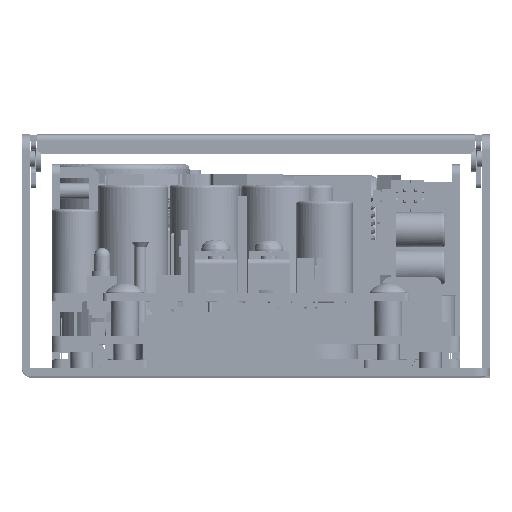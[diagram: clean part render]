
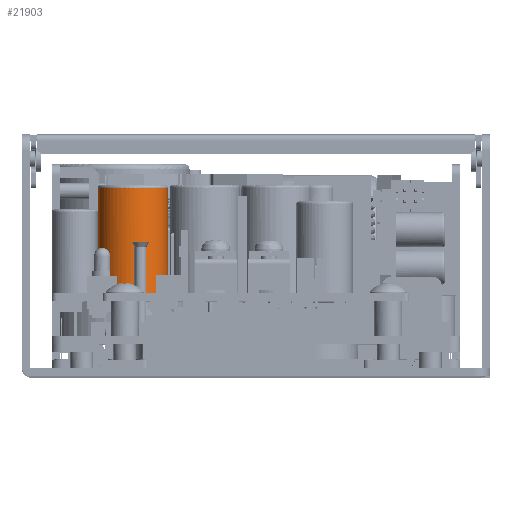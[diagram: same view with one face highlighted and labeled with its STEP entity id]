
A CAD part, top view. The second image highlights one B-rep face of the part: STEP entity #21903.
In plain terms, the highlighted cylindrical face has radius 6.5 mm (diameter 13 mm), a partial arc.
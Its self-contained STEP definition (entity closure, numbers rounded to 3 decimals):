
#492 = FACE_OUTER_BOUND ( 'NONE', #224707, .T. ) ;
#4794 = VERTEX_POINT ( 'NONE', #33130 ) ;
#18282 = CARTESIAN_POINT ( 'NONE',  ( -17.689, 35.1, 44.866 ) ) ;
#21903 = ADVANCED_FACE ( 'NONE', ( #492 ), #314435, .T. ) ;
#22781 = CARTESIAN_POINT ( 'NONE',  ( -16.387, 15.6, 40.871 ) ) ;
#27052 = ORIENTED_EDGE ( 'NONE', *, *, #331733, .T. ) ;
#28819 = CARTESIAN_POINT ( 'NONE',  ( -24.588, 15.6, 47.202 ) ) ;
#30522 = CARTESIAN_POINT ( 'NONE',  ( -16.387, 22.1, 40.871 ) ) ;
#32064 = CARTESIAN_POINT ( 'NONE',  ( -29.387, 35.1, 40.871 ) ) ;
#33130 = CARTESIAN_POINT ( 'NONE',  ( -29.387, 15.6, 40.871 ) ) ;
#34358 = CARTESIAN_POINT ( 'NONE',  ( -29.218, 15.6, 42.572 ) ) ;
#36226 = CARTESIAN_POINT ( 'NONE',  ( -16.556, 15.6, 42.572 ) ) ;
#41781 = B_SPLINE_CURVE_WITH_KNOTS ( 'NONE', 3,
 ( #248998, #109691, #308966, #226265 ),
 .UNSPECIFIED., .F., .F.,
 ( 4, 4 ),
 ( 0., 1. ),
 .UNSPECIFIED. ) ;
#49457 = CARTESIAN_POINT ( 'NONE',  ( -22.887, 15.6, 40.871 ) ) ;
#50225 = CARTESIAN_POINT ( 'NONE',  ( -28.567, 35.1, 44.145 ) ) ;
#53883 = CARTESIAN_POINT ( 'NONE',  ( -24.588, 35.1, 47.202 ) ) ;
#58939 = CARTESIAN_POINT ( 'NONE',  ( -17.207, 15.6, 44.145 ) ) ;
#60654 = CARTESIAN_POINT ( 'NONE',  ( -16.387, 15.6, 40.871 ) ) ;
#63721 = ORIENTED_EDGE ( 'NONE', *, *, #149946, .T. ) ;
#64525 = CARTESIAN_POINT ( 'NONE',  ( -29.387, 15.6, 41.722 ) ) ;
#66788 = B_SPLINE_CURVE_WITH_KNOTS ( 'NONE', 3,
 ( #277787, #279606, #305939, #311508, #18282, #245994, #163121, #136688, #247834, #307784, #53883, #253381, #80263, #219567, #50225, #332278, #367895, #225108 ),
 .UNSPECIFIED., .F., .F.,
 ( 4, 2, 2, 2, 2, 2, 2, 2, 4 ),
 ( 0., 0.125, 0.25, 0.375, 0.5, 0.625, 0.75, 0.875, 1. ),
 .UNSPECIFIED. ) ;
#80263 = CARTESIAN_POINT ( 'NONE',  ( -26.882, 35.1, 46.069 ) ) ;
#87069 = CARTESIAN_POINT ( 'NONE',  ( -28.085, 15.6, 44.866 ) ) ;
#109691 = CARTESIAN_POINT ( 'NONE',  ( -29.387, 28.6, 40.871 ) ) ;
#117149 = CARTESIAN_POINT ( 'NONE',  ( -28.567, 15.6, 44.145 ) ) ;
#124250 = EDGE_CURVE ( 'NONE', #258245, #187174, #129133, .T. ) ;
#129133 = B_SPLINE_CURVE_WITH_KNOTS ( 'NONE', 3,
 ( #60654, #30522, #316344, #282609 ),
 .UNSPECIFIED., .F., .F.,
 ( 4, 4 ),
 ( 0., 1. ),
 .UNSPECIFIED. ) ;
#136688 = CARTESIAN_POINT ( 'NONE',  ( -21.186, 35.1, 47.202 ) ) ;
#149946 = EDGE_CURVE ( 'NONE', #4794, #258245, #186490, .T. ) ;
#151014 = CARTESIAN_POINT ( 'NONE',  ( -16.387, 35.1, 40.871 ) ) ;
#159431 = VERTEX_POINT ( 'NONE', #32064 ) ;
#163121 = CARTESIAN_POINT ( 'NONE',  ( -19.613, 35.1, 46.551 ) ) ;
#165319 = ORIENTED_EDGE ( 'NONE', *, *, #124250, .T. ) ;
#186490 = B_SPLINE_CURVE_WITH_KNOTS ( 'NONE', 3,
 ( #291930, #64525, #34358, #117149, #87069, #263842, #203716, #28819, #256487, #228245, #235689, #314609, #350264, #316479, #58939, #36226, #271219, #359516 ),
 .UNSPECIFIED., .F., .F.,
 ( 4, 2, 2, 2, 2, 2, 2, 2, 4 ),
 ( 0., 0.125, 0.25, 0.375, 0.5, 0.625, 0.75, 0.875, 1. ),
 .UNSPECIFIED. ) ;
#187174 = VERTEX_POINT ( 'NONE', #151014 ) ;
#203716 = CARTESIAN_POINT ( 'NONE',  ( -26.161, 15.6, 46.551 ) ) ;
#219567 = CARTESIAN_POINT ( 'NONE',  ( -28.085, 35.1, 44.866 ) ) ;
#224707 = EDGE_LOOP ( 'NONE', ( #165319, #344234, #27052, #63721 ) ) ;
#225108 = CARTESIAN_POINT ( 'NONE',  ( -29.387, 35.1, 40.871 ) ) ;
#226265 = CARTESIAN_POINT ( 'NONE',  ( -29.387, 15.6, 40.871 ) ) ;
#228245 = CARTESIAN_POINT ( 'NONE',  ( -22.036, 15.6, 47.371 ) ) ;
#235689 = CARTESIAN_POINT ( 'NONE',  ( -21.186, 15.6, 47.202 ) ) ;
#245994 = CARTESIAN_POINT ( 'NONE',  ( -18.892, 35.1, 46.069 ) ) ;
#247834 = CARTESIAN_POINT ( 'NONE',  ( -22.036, 35.1, 47.371 ) ) ;
#248998 = CARTESIAN_POINT ( 'NONE',  ( -29.387, 35.1, 40.871 ) ) ;
#253381 = CARTESIAN_POINT ( 'NONE',  ( -26.161, 35.1, 46.551 ) ) ;
#254454 = DIRECTION ( 'NONE',  ( 0., 1., 0. ) ) ;
#256487 = CARTESIAN_POINT ( 'NONE',  ( -23.738, 15.6, 47.371 ) ) ;
#258245 = VERTEX_POINT ( 'NONE', #22781 ) ;
#263842 = CARTESIAN_POINT ( 'NONE',  ( -26.882, 15.6, 46.069 ) ) ;
#271219 = CARTESIAN_POINT ( 'NONE',  ( -16.387, 15.6, 41.722 ) ) ;
#277787 = CARTESIAN_POINT ( 'NONE',  ( -16.387, 35.1, 40.871 ) ) ;
#278848 = DIRECTION ( 'NONE',  ( 1., 0., 0. ) ) ;
#279606 = CARTESIAN_POINT ( 'NONE',  ( -16.387, 35.1, 41.722 ) ) ;
#282609 = CARTESIAN_POINT ( 'NONE',  ( -16.387, 35.1, 40.871 ) ) ;
#291930 = CARTESIAN_POINT ( 'NONE',  ( -29.387, 15.6, 40.871 ) ) ;
#294129 = AXIS2_PLACEMENT_3D ( 'NONE', #49457, #254454, #278848 ) ;
#305939 = CARTESIAN_POINT ( 'NONE',  ( -16.556, 35.1, 42.572 ) ) ;
#307784 = CARTESIAN_POINT ( 'NONE',  ( -23.738, 35.1, 47.371 ) ) ;
#308353 = EDGE_CURVE ( 'NONE', #187174, #159431, #66788, .T. ) ;
#308966 = CARTESIAN_POINT ( 'NONE',  ( -29.387, 22.1, 40.871 ) ) ;
#311508 = CARTESIAN_POINT ( 'NONE',  ( -17.207, 35.1, 44.145 ) ) ;
#314435 = CYLINDRICAL_SURFACE ( 'NONE', #294129, 6.5 ) ;
#314609 = CARTESIAN_POINT ( 'NONE',  ( -19.613, 15.6, 46.551 ) ) ;
#316344 = CARTESIAN_POINT ( 'NONE',  ( -16.387, 28.6, 40.871 ) ) ;
#316479 = CARTESIAN_POINT ( 'NONE',  ( -17.689, 15.6, 44.866 ) ) ;
#331733 = EDGE_CURVE ( 'NONE', #159431, #4794, #41781, .T. ) ;
#332278 = CARTESIAN_POINT ( 'NONE',  ( -29.218, 35.1, 42.572 ) ) ;
#344234 = ORIENTED_EDGE ( 'NONE', *, *, #308353, .T. ) ;
#350264 = CARTESIAN_POINT ( 'NONE',  ( -18.892, 15.6, 46.069 ) ) ;
#359516 = CARTESIAN_POINT ( 'NONE',  ( -16.387, 15.6, 40.871 ) ) ;
#367895 = CARTESIAN_POINT ( 'NONE',  ( -29.387, 35.1, 41.722 ) ) ;
